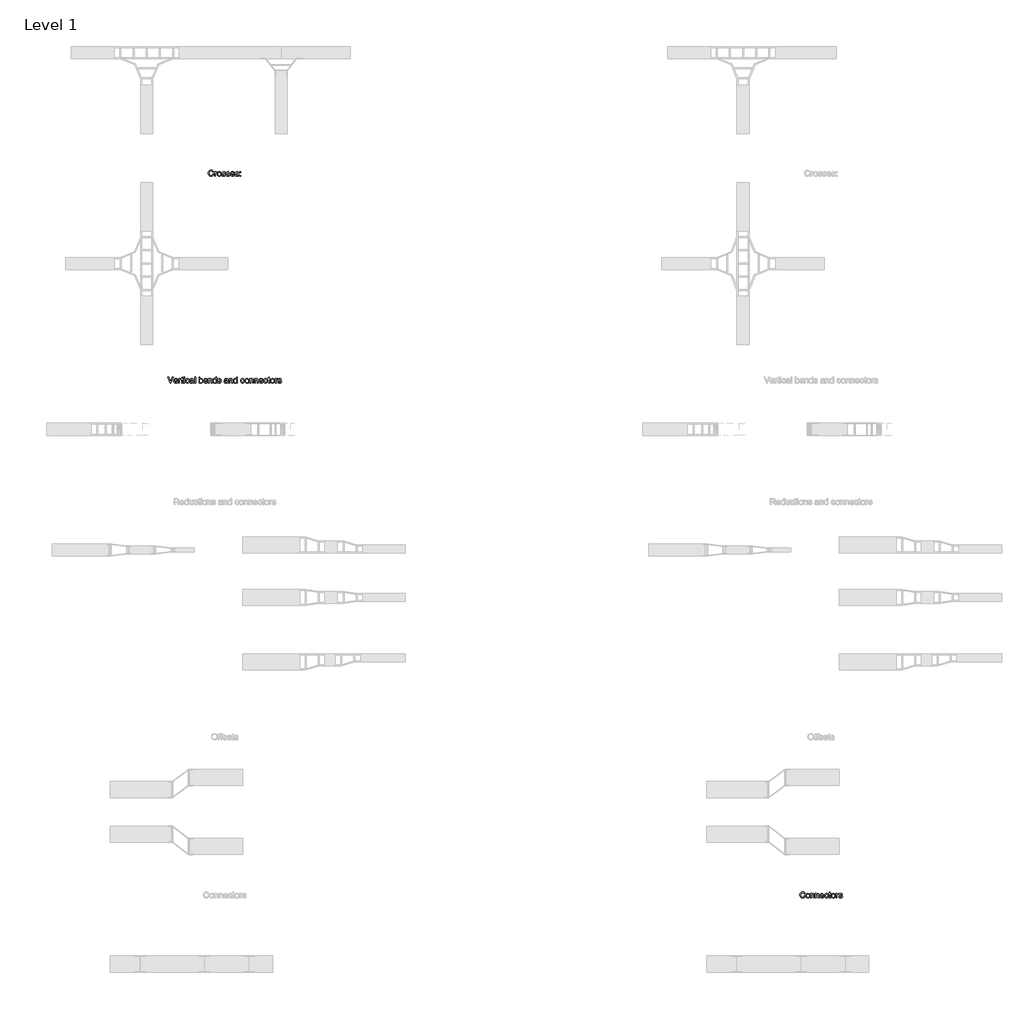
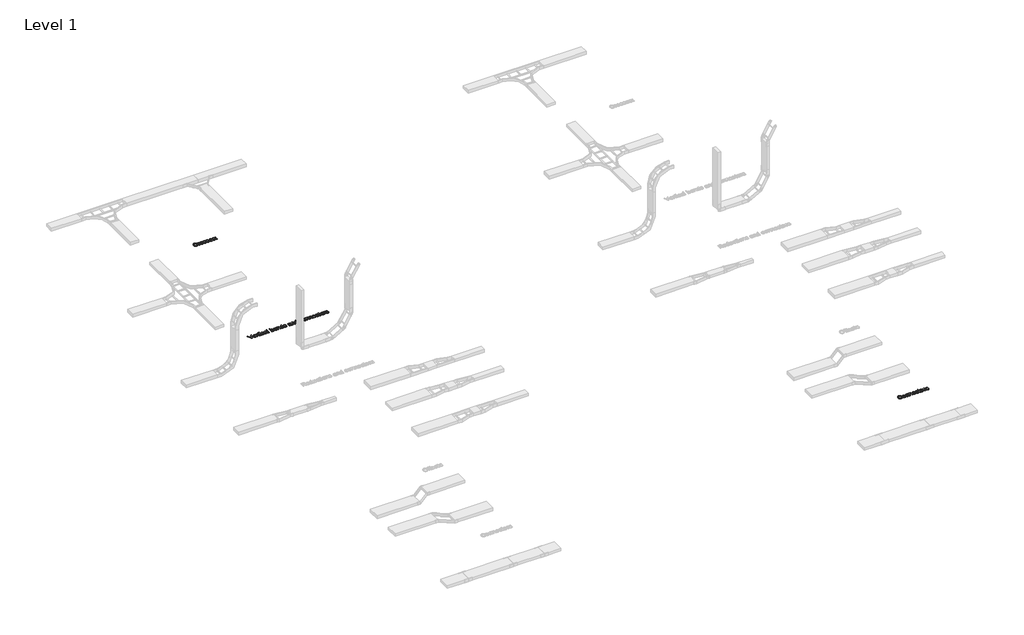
# One storey, part 73 of 106: 3 proxies.
"""IFC4 building model written with IfcOpenShell, lengths in millimetres."""

import ifcopenshell
import ifcopenshell.guid

model = None  # the IFC model being written
_history = None  # IfcOwnerHistory: only IFC2X3 demands one
_inside = {}  # id of a spatial element -> (the spatial element, [elements in it])
_under = {}  # id of a project, library or spatial element -> (it, [spatial elements below it])
_declared = {}  # id of a project -> (the project, [libraries it declares])
_typed = {}  # id of a type object -> (the type object, [elements of that type])
_made_of = {}  # id of a material, layer set ... -> (it, [elements and type objects made of it])


def new_model(schema):
    """Start an empty IFC model of exactly this schema.

    Asked for "IFC4X3", IfcOpenShell would pick the latest addendum, in which some entities
    have other attributes; the version numbers below select the first issue.
    IFC2X3 requires an IfcOwnerHistory on every rooted entity: one is made here for all.
    """
    global model, _history
    if schema == "IFC4X3":
        model = ifcopenshell.file(schema_version=(4, 3, 0, 0))
    else:
        model = ifcopenshell.file(schema=schema)
    _inside.clear()
    _under.clear()
    _declared.clear()
    _typed.clear()
    _made_of.clear()
    _history = None
    if model.schema == "IFC2X3":
        org = make("IfcOrganization", Name="unknown")
        user = make(
            "IfcPersonAndOrganization",
            ThePerson=make("IfcPerson", FamilyName="unknown"),
            TheOrganization=org,
        )
        app = make(
            "IfcApplication",
            ApplicationDeveloper=org,
            Version="unknown",
            ApplicationFullName="unknown",
            ApplicationIdentifier="unknown",
        )
        _history = make(
            "IfcOwnerHistory",
            OwningUser=user,
            OwningApplication=app,
            ChangeAction="ADDED",
            CreationDate=0,
        )
    return model


def make(cls, **values):
    """One entity of the class cls with the attributes given. An attribute that is None is left unset."""
    return model.create_entity(
        cls, **{name: value for name, value in values.items() if value is not None}
    )


def rooted(cls, **values):
    """An entity with a GlobalId (a new one), such as an element, a storey or a relation."""
    return make(cls, GlobalId=ifcopenshell.guid.new(), OwnerHistory=_history, **values)


def si_unit(unit_type, name, prefix=None):
    """IfcSIUnit, for example si_unit("LENGTHUNIT", "METRE", prefix="MILLI")."""
    return make("IfcSIUnit", UnitType=unit_type, Prefix=prefix, Name=name)


def assignment(units):
    """IfcUnitAssignment: the units of a project."""
    return None if units is None else make("IfcUnitAssignment", Units=units)


def point(xyz):
    """IfcCartesianPoint."""
    return None if xyz is None else make("IfcCartesianPoint", Coordinates=xyz)


def direction(xyz):
    """IfcDirection."""
    return None if xyz is None else make("IfcDirection", DirectionRatios=xyz)


def frame(location, z_axis=None, x_axis=None):
    """IfcAxis2Placement3D, a coordinate frame: its origin and axes. An axis left out is left unset."""
    return make(
        "IfcAxis2Placement3D",
        Location=point(location),
        Axis=direction(z_axis),
        RefDirection=direction(x_axis),
    )


def origin():
    """The frame at (0, 0, 0) with its axes left unset."""
    return frame((0.0, 0.0, 0.0))


def origin_with_axes():
    """The frame at (0, 0, 0) with the z axis (0, 0, 1) and the x axis (1, 0, 0) written out."""
    return frame((0.0, 0.0, 0.0), z_axis=(0.0, 0.0, 1.0), x_axis=(1.0, 0.0, 0.0))


def place(relative_to, where):
    """IfcLocalPlacement: puts the frame where relative to a parent placement (None: the world)."""
    return make(
        "IfcLocalPlacement", PlacementRelTo=relative_to, RelativePlacement=where
    )


def context(
    kind, dimensions, precision=None, world=None, true_north=None, identifier=None
):
    """IfcGeometricRepresentationContext, for example the 3D "Model" context."""
    return make(
        "IfcGeometricRepresentationContext",
        ContextIdentifier=identifier,
        ContextType=kind,
        CoordinateSpaceDimension=dimensions,
        Precision=precision,
        WorldCoordinateSystem=world,
        TrueNorth=true_north,
    )


def project(units=None, contexts=None):
    """IfcProject with its units and contexts."""
    return rooted(
        "IfcProject",
        Name="project",
        RepresentationContexts=contexts,
        UnitsInContext=assignment(units),
    )


def spatial(cls, under=None, at=None, **own):
    """A site, building, storey or space (cls), placed at a placement, below another one or the project."""
    s = rooted(cls, ObjectPlacement=at, **own)
    if under is not None:
        _under.setdefault(under.id(), (under, []))[1].append(s)
    return s


def polyline(points):
    """IfcPolyline through the points."""
    return make("IfcPolyline", Points=[point(p) for p in points])


def outline(outer, holes=None, kind="AREA"):
    """IfcArbitraryClosedProfileDef: a profile drawn as a closed curve; with holes, ...WithVoids."""
    if holes is None:
        return make("IfcArbitraryClosedProfileDef", ProfileType=kind, OuterCurve=outer)
    return make(
        "IfcArbitraryProfileDefWithVoids",
        ProfileType=kind,
        OuterCurve=outer,
        InnerCurves=holes,
    )


def extrude(swept, where, along, depth):
    """IfcExtrudedAreaSolid: the profile swept, set in the frame where, extruded along a direction by depth."""
    return make(
        "IfcExtrudedAreaSolid",
        SweptArea=swept,
        Position=where,
        ExtrudedDirection=direction(along),
        Depth=depth,
    )


def shape(context_of_items, identifier, shape_type, items):
    """IfcShapeRepresentation: the items that make up one representation, for example the "Body"."""
    return make(
        "IfcShapeRepresentation",
        ContextOfItems=context_of_items,
        RepresentationIdentifier=identifier,
        RepresentationType=shape_type,
        Items=items,
    )


def made_of(thing, what):
    """Note that an element or type object is made of a material, layer set ...; save() writes the relation."""
    if what is not None:
        _made_of.setdefault(what.id(), (what, []))[1].append(thing)
    return thing


def element(
    cls,
    number,
    at=None,
    inside=None,
    cuts=None,
    type_object=None,
    material=None,
    context=None,
    identifier="Body",
    shape_type=None,
    held_by="IfcProductDefinitionShape",
    body=None,
    shapes=None,
    **own,
):
    """One element of the class cls, such as IfcWall. Its Tag is "e" and its number.

    at: its placement. inside: the storey or other place that contains it. cuts: it is an
    opening in that element (IfcRelVoidsElement). A single representation is given by context,
    identifier, shape_type and body (its items); several are given by shapes. held_by: the class
    of the entity that holds the representations. save() writes the other relations.
    """
    e = rooted(cls, Tag="e%d" % number, ObjectPlacement=at, **own)
    if body is not None:
        shapes = [shape(context, identifier, shape_type, body)]
    if shapes is not None:
        e.Representation = make(held_by, Representations=shapes)
    if inside is not None:
        _inside.setdefault(inside.id(), (inside, []))[1].append(e)
    if cuts is not None:
        rooted(
            "IfcRelVoidsElement", RelatingBuildingElement=cuts, RelatedOpeningElement=e
        )
    if type_object is not None:
        _typed.setdefault(type_object.id(), (type_object, []))[1].append(e)
    return made_of(e, material)


def aggregate(whole, parts):
    """IfcRelAggregates: a whole, such as a stair, and the parts it consists of."""
    return rooted("IfcRelAggregates", RelatingObject=whole, RelatedObjects=parts)


def save(model, path):
    """Write the relations noted so far, then the file.

    IfcRelAggregates (storeys below a building ...), IfcRelContainedInSpatialStructure (elements
    in a storey), IfcRelDefinesByType, IfcRelAssociatesMaterial and IfcRelDeclares: one each for
    every whole, place, type object, material and project.
    """
    for whole, parts in _under.values():
        aggregate(whole, parts)
    for where, things in _inside.values():
        rooted(
            "IfcRelContainedInSpatialStructure",
            RelatedElements=things,
            RelatingStructure=where,
        )
    for kind, things in _typed.values():
        rooted("IfcRelDefinesByType", RelatedObjects=things, RelatingType=kind)
    for what, things in _made_of.values():
        rooted("IfcRelAssociatesMaterial", RelatedObjects=things, RelatingMaterial=what)
    for by, libraries in _declared.values():
        rooted("IfcRelDeclares", RelatingContext=by, RelatedDefinitions=libraries)
    model.write(path)


model = new_model("IFC4")

# Units and contexts
model_context = context("Model", 3, world=origin())
ifc_project = project(units=[si_unit("LENGTHUNIT", "METRE", prefix="MILLI")], contexts=[model_context])

# Site, building, storey
site = spatial("IfcSite", under=ifc_project)
building = spatial("IfcBuilding", under=site)
storey = spatial("IfcBuildingStorey", under=building, Name="Level 1", Elevation=0.0)

# Proxies
placement = place(None, origin())
element("IfcBuildingElementProxy", 1, Name="150mm Arial 2", ObjectType="150mm Arial 2", at=placement, inside=storey, context=model_context, shape_type="SweptSolid", body=[
    extrude(outline(polyline([(92926.8011102, 62501.4112533), (92945.6366684, 62496.5552109), (92936.9454562, 62474.6064514), (92923.3062312, 62458.5713949), (92905.3903781, 62448.7627412), (92883.8692814, 62445.49319), (92862.0216894, 62447.9671964), (92844.6714548, 62455.3892157), (92831.3725206, 62467.5017304), (92821.6788301, 62484.0472231), (92815.7605285, 62503.4989836), (92813.7877613, 62524.3303016), (92816.0180459, 62546.3020537), (92822.7088997, 62565.2755676), (92833.5108347, 62580.6484365), (92848.0743632, 62591.8182536), (92865.3464229, 62598.619472), (92884.2739516, 62600.8865448), (92904.9259271, 62597.9526859), (92922.0002502, 62589.1511091), (92934.963492, 62575.0244405), (92943.2822236, 62556.115306), (92924.4466654, 62551.6271456), (92917.91676, 62565.3629396), (92908.9956216, 62574.7853172), (92897.5728857, 62580.2345693), (92883.5381876, 62582.0509866), (92867.3605768, 62580.0368327), (92854.0708398, 62573.9943709), (92843.9862746, 62564.5581977), (92837.4241795, 62552.3629096), (92832.6233194, 62524.3670898), (92834.0442636, 62506.9662714), (92838.3070963, 62491.9198978), (92845.5727657, 62479.8027846), (92856.0022202, 62471.1897474), (92868.5056095, 62466.043998), (92881.9930832, 62464.3287482), (92897.71544, 62466.6647988), (92910.8166375, 62473.6729508), (92920.7080647, 62485.2796278), (92926.8011102, 62501.4112533)])), origin_with_axes(), (0.0, 0.0, 1.0), 15.0),
    extrude(outline(polyline([(92969.181116, 62447.8476348), (92969.181116, 62558.5065389), (92985.6622294, 62558.5065389), (92985.6622294, 62542.1357901), (92997.3608769, 62557.2189519), (93009.1331007, 62560.8609837), (93028.0422353, 62555.0484482), (93021.7514532, 62538.1626646), (93008.5077013, 62542.0254255), (92997.8575176, 62538.3098174), (92991.0700948, 62528.0091215), (92988.0166742, 62506.0097782), (92988.0166742, 62447.8476348), (92969.181116, 62447.8476348)])), origin_with_axes(), (0.0, 0.0, 1.0), 15.0),
    extrude(outline(polyline([(93035.1055696, 62503.1770869), (93039.1798627, 62529.8577286), (93051.402742, 62548.6105133), (93066.5042979, 62557.7983661), (93084.5856979, 62560.8609837), (93104.3731507, 62557.13158), (93120.178281, 62545.9433688), (93130.5387577, 62528.179267), (93133.9922499, 62504.7221912), (93132.4655396, 62485.693495), (93127.8854088, 62471.2081415), (93120.3852146, 62460.3602211), (93110.0983143, 62452.2438246), (93097.8800335, 62447.1808487), (93084.5856979, 62445.49319), (93064.5591218, 62449.2087982), (93048.7723857, 62460.3556226), (93038.5222736, 62478.492205), (93035.1055696, 62503.1770869)]), holes=[polyline([(93053.9411277, 62503.2138751), (93056.1208286, 62486.1671431), (93062.659931, 62474.0224387), (93072.5007744, 62466.7521708), (93084.5856979, 62464.3287482), (93096.6154392, 62466.7659664), (93106.4378884, 62474.077621), (93112.9769909, 62486.3832738), (93115.1566917, 62503.8024862), (93112.9631953, 62520.3525775), (93106.3827061, 62532.331735), (93096.5464613, 62539.6020029), (93084.5856979, 62542.0254255), (93072.5007744, 62539.6112), (93062.659931, 62532.3685232), (93056.1208286, 62520.25141), (93053.9411277, 62503.2138751)])]), origin_with_axes(), (0.0, 0.0, 1.0), 15.0),
    extrude(outline(polyline([(93148.1189185, 62480.8098615), (93166.9544766, 62483.1643063), (93169.9251238, 62475.1076906), (93175.6732799, 62469.1847905), (93195.6492723, 62464.3287482), (93214.8527124, 62468.7801203), (93221.1067063, 62479.227969), (93219.5340108, 62484.028829), (93214.8159242, 62487.6892549), (93195.4285431, 62493.060332), (93167.0648412, 62502.275776), (93154.6856121, 62513.0363243), (93150.4733633, 62528.2298507), (93153.8578776, 62542.2645488), (93163.0917157, 62552.988309), (93175.0662746, 62558.5617212), (93191.2714765, 62560.8609837), (93214.1905248, 62557.1637696), (93228.7586518, 62547.1573794), (93235.233375, 62530.2532017), (93216.3978168, 62527.8987569), (93209.3160884, 62538.2914233), (93192.7430045, 62542.0254255), (93174.7167867, 62538.4569702), (93169.3089214, 62530.1428371), (93171.5530016, 62524.6613954), (93178.5795477, 62520.5043288), (93194.8031437, 62516.4944151), (93222.4494756, 62507.628459), (93235.2885573, 62497.5852805), (93239.9422645, 62481.2145317), (93234.4792169, 62463.188314), (93218.7154734, 62450.1101091), (93195.3917549, 62445.49319), (93176.3998469, 62447.7188761), (93162.5398927, 62454.3959343), (93153.2876605, 62465.4507882), (93148.1189185, 62480.8098615)])), origin_with_axes(), (0.0, 0.0, 1.0), 15.0),
    extrude(outline(polyline([(93254.0689331, 62480.8098615), (93272.9044913, 62483.1643063), (93275.8751384, 62475.1076906), (93281.6232945, 62469.1847905), (93301.5992869, 62464.3287482), (93320.802727, 62468.7801203), (93327.056721, 62479.227969), (93325.4840254, 62484.028829), (93320.7659388, 62487.6892549), (93301.3785577, 62493.060332), (93273.0148559, 62502.275776), (93260.6356267, 62513.0363243), (93256.4233779, 62528.2298507), (93259.8078922, 62542.2645488), (93269.0417303, 62552.988309), (93281.0162893, 62558.5617212), (93297.2214911, 62560.8609837), (93320.1405394, 62557.1637696), (93334.7086664, 62547.1573794), (93341.1833896, 62530.2532017), (93322.3478314, 62527.8987569), (93315.266103, 62538.2914233), (93298.6930191, 62542.0254255), (93280.6668014, 62538.4569702), (93275.258936, 62530.1428371), (93277.5030162, 62524.6613954), (93284.5295623, 62520.5043288), (93300.7531583, 62516.4944151), (93328.3994902, 62507.628459), (93341.2385719, 62497.5852805), (93345.8922791, 62481.2145317), (93340.4292315, 62463.188314), (93324.665488, 62450.1101091), (93301.3417695, 62445.49319), (93282.3498615, 62447.7188761), (93268.4899073, 62454.3959343), (93259.2376751, 62465.4507882), (93254.0689331, 62480.8098615)])), origin_with_axes(), (0.0, 0.0, 1.0), 15.0),
    extrude(outline(polyline([(93444.5582302, 62480.8098615), (93463.0259064, 62478.4554168), (93456.3718408, 62464.5402803), (93445.7538467, 62454.1384169), (93431.4110474, 62447.6544967), (93413.5825662, 62445.49319), (93391.4820554, 62449.2225937), (93374.4767101, 62460.4108049), (93363.6333883, 62478.3312566), (93360.0189477, 62502.2573819), (93363.6701765, 62526.988249), (93374.6238629, 62545.4835163), (93391.3992819, 62557.0166168), (93412.5157084, 62560.8609837), (93432.9745459, 62557.0258139), (93449.322302, 62545.5203045), (93460.0414637, 62527.0618254), (93463.6145176, 62502.3677465), (93463.504153, 62497.2909749), (93378.8545059, 62497.2909749), (93382.1148601, 62483.1918975), (93389.6886306, 62472.8268223), (93400.6193244, 62466.4532667), (93413.9504482, 62464.3287482), (93432.4181244, 62468.2650855), (93444.5582302, 62480.8098615)]), holes=[polyline([(93378.8545059, 62516.1265331), (93444.7789594, 62516.1265331), (93442.2313766, 62526.0777411), (93437.2373785, 62533.1962577), (93426.2561009, 62539.8181336), (93412.442132, 62542.0254255), (93399.7456047, 62540.2641905), (93389.2471722, 62534.9804853), (93381.9493132, 62526.7445272), (93378.8545059, 62516.1265331)])]), origin_with_axes(), (0.0, 0.0, 1.0), 15.0),
    extrude(outline(polyline([(93475.3867414, 62480.8098615), (93494.2222996, 62483.1643063), (93497.1929467, 62475.1076906), (93502.9411028, 62469.1847905), (93522.9170952, 62464.3287482), (93542.1205353, 62468.7801203), (93548.3745292, 62479.227969), (93546.8018337, 62484.028829), (93542.0837471, 62487.6892549), (93522.696366, 62493.060332), (93494.3326642, 62502.275776), (93481.953435, 62513.0363243), (93477.7411862, 62528.2298507), (93481.1257005, 62542.2645488), (93490.3595386, 62552.988309), (93502.3340976, 62558.5617212), (93518.5392994, 62560.8609837), (93541.4583477, 62557.1637696), (93556.0264747, 62547.1573794), (93562.5011979, 62530.2532017), (93543.6656397, 62527.8987569), (93536.5839113, 62538.2914233), (93520.0108274, 62542.0254255), (93501.9846097, 62538.4569702), (93496.5767443, 62530.1428371), (93498.8208245, 62524.6613954), (93505.8473706, 62520.5043288), (93522.0709666, 62516.4944151), (93549.7172985, 62507.628459), (93562.5563802, 62497.5852805), (93567.2100874, 62481.2145317), (93561.7470398, 62463.188314), (93545.9832963, 62450.1101091), (93522.6595778, 62445.49319), (93503.6676698, 62447.7188761), (93489.8077156, 62454.3959343), (93480.5554834, 62465.4507882), (93475.3867414, 62480.8098615)])), origin_with_axes(), (0.0, 0.0, 1.0), 15.0),
    extrude(outline(polyline([(93593.1089799, 62539.6709808), (93593.1089799, 62558.5065389), (93611.944538, 62558.5065389), (93611.944538, 62539.6709808), (93593.1089799, 62539.6709808)])), origin_with_axes(), (0.0, 0.0, 1.0), 15.0),
    extrude(outline(polyline([(93593.1089799, 62447.8476348), (93593.1089799, 62466.6831929), (93611.944538, 62466.6831929), (93611.944538, 62447.8476348), (93593.1089799, 62447.8476348)])), origin_with_axes(), (0.0, 0.0, 1.0), 15.0),
])
element("IfcBuildingElementProxy", 2, Name="150mm Arial 2", ObjectType="150mm Arial 2", at=placement, inside=storey, context=model_context, shape_type="SweptSolid", body=[
    extrude(outline(polyline([(91872.9295586, 57347.8476348), (91813.0015816, 57498.5321), (91833.1615149, 57498.5321), (91873.2974406, 57389.9701232), (91881.4276327, 57365.5059705), (91889.4474602, 57389.9701232), (91929.6937505, 57498.5321), (91949.8168956, 57498.5321), (91892.353728, 57347.8476348), (91872.9295586, 57347.8476348)])), origin_with_axes(), (0.0, 0.0, 1.0), 15.0),
    extrude(outline(polyline([(92042.4863702, 57380.8098615), (92060.9540463, 57378.4554168), (92054.2999808, 57364.5402803), (92043.6819867, 57354.1384169), (92029.3391874, 57347.6544967), (92011.5107062, 57345.49319), (91989.4101953, 57349.2225937), (91972.4048501, 57360.4108049), (91961.5615283, 57378.3312566), (91957.9470877, 57402.2573819), (91961.5983165, 57426.988249), (91972.5520029, 57445.4835163), (91989.3274219, 57457.0166168), (92010.4438484, 57460.8609837), (92030.9026859, 57457.0258139), (92047.250442, 57445.5203045), (92057.9696037, 57427.0618254), (92061.5426575, 57402.3677465), (92061.4322929, 57397.2909749), (91976.7826459, 57397.2909749), (91980.043, 57383.1918975), (91987.6167706, 57372.8268223), (91998.5474644, 57366.4532667), (92011.8785882, 57364.3287482), (92030.3462644, 57368.2650855), (92042.4863702, 57380.8098615)]), holes=[polyline([(91976.7826459, 57416.1265331), (92042.7070994, 57416.1265331), (92040.1595166, 57426.0777411), (92035.1655185, 57433.1962577), (92024.1842409, 57439.8181336), (92010.370272, 57442.0254255), (91997.6737447, 57440.2641905), (91987.1753122, 57434.9804853), (91979.8774531, 57426.7445272), (91976.7826459, 57416.1265331)])]), origin_with_axes(), (0.0, 0.0, 1.0), 15.0),
    extrude(outline(polyline([(92191.0371198, 57363.556196), (92193.3915646, 57347.2958118), (92179.3016842, 57345.49319), (92163.5195466, 57348.620187), (92155.6468719, 57356.8239555), (92153.3660035, 57378.1978994), (92153.3660035, 57439.6709808), (92139.2393349, 57439.6709808), (92139.2393349, 57455.0484482), (92139.2393349, 57458.5065389), (92153.3660035, 57458.5065389), (92153.3660035, 57485.3987128), (92172.2015617, 57496.4719608), (92172.2015617, 57458.5065389), (92191.0371198, 57458.5065389), (92191.0371198, 57439.6709808), (92172.2015617, 57439.6709808), (92172.2015617, 57378.7497224), (92173.1948431, 57369.0376377), (92176.4138105, 57365.597941), (92182.8333514, 57364.3287482), (92191.0371198, 57363.556196)])), origin_with_axes(), (0.0, 0.0, 1.0), 15.0),
    extrude(outline(polyline([(92080.3782157, 57347.8476348), (92080.3782157, 57458.5065389), (92096.8593291, 57458.5065389), (92096.8593291, 57442.1357901), (92108.5579765, 57457.2189519), (92120.3302004, 57460.8609837), (92139.2393349, 57455.0484482), (92132.9485528, 57438.1626646), (92119.704801, 57442.0254255), (92109.0546172, 57438.3098174), (92102.2671944, 57428.0091215), (92099.2137738, 57406.0097782), (92099.2137738, 57347.8476348), (92080.3782157, 57347.8476348)])), origin_with_axes(), (0.0, 0.0, 1.0), 15.0),
    extrude(outline(polyline([(92209.872678, 57479.6965419), (92209.872678, 57498.5321), (92228.7082362, 57498.5321), (92228.7082362, 57479.6965419), (92209.872678, 57479.6965419)])), origin_with_axes(), (0.0, 0.0, 1.0), 15.0),
    extrude(outline(polyline([(92209.872678, 57347.8476348), (92209.872678, 57458.5065389), (92228.7082362, 57458.5065389), (92228.7082362, 57347.8476348), (92209.872678, 57347.8476348)])), origin_with_axes(), (0.0, 0.0, 1.0), 15.0),
    extrude(outline(polyline([(92327.5949165, 57387.8731959), (92346.4304746, 57385.5187511), (92341.1789591, 57368.7663247), (92331.3105246, 57356.1065856), (92317.7540731, 57348.1465389), (92301.4385066, 57345.49319), (92281.4027334, 57349.1950026), (92265.735559, 57360.3004403), (92255.6234026, 57378.3220596), (92252.2526838, 57402.7724167), (92253.6920221, 57419.5340401), (92258.0100371, 57434.0607803), (92265.2757065, 57445.7916175), (92275.5580082, 57454.1655314), (92287.8590624, 57459.1871206), (92301.1809892, 57460.8609837), (92317.096484, 57458.5617212), (92329.8206025, 57451.6639338), (92338.9486745, 57440.5355035), (92344.0760298, 57425.5443122), (92325.2404717, 57423.1898674), (92316.5032743, 57437.2981419), (92301.328142, 57442.0254255), (92289.1558465, 57439.6985719), (92279.4943456, 57432.7180111), (92273.1897679, 57420.7066639), (92271.088242, 57403.2874515), (92273.1437826, 57385.6337142), (92279.3104046, 57373.5809803), (92288.7971615, 57366.6418062), (92300.8131072, 57364.3287482), (92310.5665786, 57365.772685), (92318.5634135, 57370.1044955), (92324.3805475, 57377.4345442), (92327.5949165, 57387.8731959)])), origin_with_axes(), (0.0, 0.0, 1.0), 15.0),
    extrude(outline(polyline([(92433.5449311, 57361.9743034), (92415.27959, 57349.2087982), (92395.1012626, 57345.49319), (92379.3605117, 57347.7280731), (92367.7492362, 57354.4327225), (92360.5893329, 57364.6138567), (92358.2026985, 57377.2781944), (92361.807942, 57392.1774152), (92371.2809034, 57402.9931459), (92384.4694729, 57409.1735634), (92400.7666453, 57412.0062547), (92433.4345665, 57418.4809779), (92433.5449311, 57422.6748326), (92432.248147, 57431.0809362), (92428.3577949, 57436.580772), (92419.6573857, 57440.6642622), (92407.535674, 57442.0254255), (92388.4793867, 57438.4017879), (92379.3927014, 57425.5443122), (92360.5571432, 57427.8987569), (92368.7057294, 57446.2928567), (92385.1132664, 57457.0717991), (92409.9636952, 57460.8609837), (92432.790773, 57457.5132575), (92445.6850369, 57449.107154), (92451.4607842, 57436.3232546), (92452.3804892, 57419.8421412), (92452.3804892, 57396.4080581), (92453.3369824, 57363.6849547), (92457.0893788, 57347.8476348), (92438.2538206, 57347.8476348), (92433.5449311, 57361.9743034)]), holes=[polyline([(92433.5449311, 57399.6454197), (92403.1578783, 57393.8696724), (92386.9526764, 57390.8162518), (92379.6134306, 57385.8498449), (92377.0382566, 57378.6025696), (92382.648457, 57368.4122383), (92399.1111763, 57364.3287482), (92418.1674637, 57368.8353026), (92430.4547223, 57379.7430038), (92433.4345665, 57394.3111308), (92433.5449311, 57399.6454197)])]), origin_with_axes(), (0.0, 0.0, 1.0), 15.0),
    extrude(outline(polyline([(92478.2793817, 57347.8476348), (92478.2793817, 57498.5321), (92497.1149398, 57498.5321), (92497.1149398, 57347.8476348), (92478.2793817, 57347.8476348)])), origin_with_axes(), (0.0, 0.0, 1.0), 15.0),
    extrude(outline(polyline([(92603.0649544, 57347.8476348), (92584.2293963, 57347.8476348), (92584.2293963, 57498.5321), (92603.0649544, 57498.5321), (92603.0649544, 57442.6508249), (92616.253524, 57456.308444), (92632.6426669, 57460.8609837), (92651.5150132, 57456.7590995), (92666.1567166, 57445.2259989), (92675.1514314, 57427.2917516), (92678.4071871, 57404.8325558), (92675.0364683, 57379.6878215), (92664.9243119, 57360.981022), (92650.084872, 57349.365148), (92632.5323023, 57345.49319), (92615.7844744, 57350.4871881), (92603.0649544, 57365.4691823), (92603.0649544, 57347.8476348)]), holes=[polyline([(92603.0649544, 57403.949639), (92604.3525414, 57388.2410779), (92608.2153024, 57377.6092882), (92618.0837369, 57367.6488832), (92630.9136215, 57364.3287482), (92641.7845344, 57366.7751634), (92651.0735548, 57374.1144092), (92657.4471104, 57386.3005003), (92659.5716289, 57403.2874515), (92657.5344824, 57420.5227229), (92651.4230427, 57432.5708583), (92642.4237294, 57439.6617837), (92631.7229619, 57442.0254255), (92620.8520489, 57439.5790103), (92611.5630285, 57432.2397645), (92605.189473, 57420.2744026), (92603.0649544, 57403.949639)])]), origin_with_axes(), (0.0, 0.0, 1.0), 15.0),
    extrude(outline(polyline([(92777.0731382, 57380.8098615), (92795.5408143, 57378.4554168), (92788.8867487, 57364.5402803), (92778.2687546, 57354.1384169), (92763.9259554, 57347.6544967), (92746.0974742, 57345.49319), (92723.9969633, 57349.2225937), (92706.9916181, 57360.4108049), (92696.1482963, 57378.3312566), (92692.5338557, 57402.2573819), (92696.1850845, 57426.988249), (92707.1387709, 57445.4835163), (92723.9141899, 57457.0166168), (92745.0306164, 57460.8609837), (92765.4894538, 57457.0258139), (92781.83721, 57445.5203045), (92792.5563716, 57427.0618254), (92796.1294255, 57402.3677465), (92796.0190609, 57397.2909749), (92711.3694138, 57397.2909749), (92714.629768, 57383.1918975), (92722.2035386, 57372.8268223), (92733.1342324, 57366.4532667), (92746.4653562, 57364.3287482), (92764.9330323, 57368.2650855), (92777.0731382, 57380.8098615)]), holes=[polyline([(92711.3694138, 57416.1265331), (92777.2938674, 57416.1265331), (92774.7462845, 57426.0777411), (92769.7522865, 57433.1962577), (92758.7710089, 57439.8181336), (92744.95704, 57442.0254255), (92732.2605126, 57440.2641905), (92721.7620802, 57434.9804853), (92714.4642211, 57426.7445272), (92711.3694138, 57416.1265331)])]), origin_with_axes(), (0.0, 0.0, 1.0), 15.0),
    extrude(outline(polyline([(92814.9649837, 57347.8476348), (92814.9649837, 57458.5065389), (92833.8005418, 57458.5065389), (92833.8005418, 57443.0554951), (92848.2031219, 57456.4096116), (92867.8664146, 57460.8609837), (92885.653509, 57457.2741342), (92897.7936149, 57447.8563552), (92903.4406035, 57434.0055981), (92904.4338849, 57415.7954393), (92904.4338849, 57347.8476348), (92885.5983267, 57347.8476348), (92885.5983267, 57413.2570535), (92883.427823, 57429.9221079), (92875.7574834, 57438.7328817), (92862.8264312, 57442.0254255), (92851.7945699, 57440.1768185), (92842.3905864, 57434.6309974), (92835.948053, 57423.9164343), (92833.8005418, 57406.5616012), (92833.8005418, 57347.8476348), (92814.9649837, 57347.8476348)])), origin_with_axes(), (0.0, 0.0, 1.0), 15.0),
    extrude(outline(polyline([(92998.6116757, 57347.8476348), (92998.6116757, 57365.6163351), (92986.1496731, 57350.5239763), (92968.9235986, 57345.49319), (92956.7467046, 57347.3142059), (92945.5998802, 57352.7772535), (92936.163707, 57361.5006553), (92929.1187668, 57373.1027337), (92924.731774, 57387.1144392), (92923.269443, 57403.0667223), (92928.6589143, 57433.0491049), (92935.3911548, 57444.9408904), (92944.8089339, 57453.6872848), (92956.1994801, 57459.067559), (92968.8500222, 57460.8609837), (92986.2140524, 57455.7290299), (92998.6116757, 57442.3933075), (92998.6116757, 57498.5321), (93017.4472338, 57498.5321), (93017.4472338, 57347.8476348), (92998.6116757, 57347.8476348)]), holes=[polyline([(92942.1050012, 57403.1402987), (92944.2295197, 57386.1027638), (92950.6030753, 57373.9856505), (92959.8645045, 57366.7429738), (92970.652644, 57364.3287482), (92981.436185, 57366.6326092), (92990.4630895, 57373.5441921), (92996.5745291, 57385.1922558), (92998.6116757, 57401.7055589), (92996.5377409, 57419.7593678), (92990.3159367, 57432.2765527), (92981.059106, 57439.5882073), (92969.8800918, 57442.0254255), (92958.9815877, 57439.6847764), (92950.0512523, 57432.6628288), (92944.091564, 57420.6008979), (92942.1050012, 57403.1402987)])]), origin_with_axes(), (0.0, 0.0, 1.0), 15.0),
    extrude(outline(polyline([(93038.6372367, 57380.8098615), (93057.4727949, 57383.1643063), (93060.443442, 57375.1076906), (93066.1915982, 57369.1847905), (93086.1675905, 57364.3287482), (93105.3710307, 57368.7801203), (93111.6250246, 57379.227969), (93110.052329, 57384.028829), (93105.3342425, 57387.6892549), (93085.9468613, 57393.060332), (93057.5831595, 57402.275776), (93045.2039303, 57413.0363243), (93040.9916815, 57428.2298507), (93044.3761959, 57442.2645488), (93053.6100339, 57452.988309), (93065.5845929, 57458.5617212), (93081.7897948, 57460.8609837), (93104.7088431, 57457.1637696), (93119.2769701, 57447.1573794), (93125.7516932, 57430.2532017), (93106.916135, 57427.8987569), (93099.8344066, 57438.2914233), (93083.2613227, 57442.0254255), (93065.235105, 57438.4569702), (93059.8272397, 57430.1428371), (93062.0713198, 57424.6613954), (93069.0978659, 57420.5043288), (93085.3214619, 57416.4944151), (93112.9677939, 57407.628459), (93125.8068755, 57397.5852805), (93130.4605827, 57381.2145317), (93124.9975351, 57363.188314), (93109.2337916, 57350.1101091), (93085.9100731, 57345.49319), (93066.9181651, 57347.7188761), (93053.0582109, 57354.3959343), (93043.8059788, 57365.4507882), (93038.6372367, 57380.8098615)])), origin_with_axes(), (0.0, 0.0, 1.0), 15.0),
    extrude(outline(polyline([(93281.145048, 57361.9743034), (93262.8797069, 57349.2087982), (93242.7013795, 57345.49319), (93226.9606286, 57347.7280731), (93215.3493531, 57354.4327225), (93208.1894498, 57364.6138567), (93205.8028153, 57377.2781944), (93209.4080589, 57392.1774152), (93218.8810203, 57402.9931459), (93232.0695898, 57409.1735634), (93248.3667622, 57412.0062547), (93281.0346834, 57418.4809779), (93281.145048, 57422.6748326), (93279.8482639, 57431.0809362), (93275.9579118, 57436.580772), (93267.2575026, 57440.6642622), (93255.1357909, 57442.0254255), (93236.0795035, 57438.4017879), (93226.9928183, 57425.5443122), (93208.1572601, 57427.8987569), (93216.3058463, 57446.2928567), (93232.7133833, 57457.0717991), (93257.5638121, 57460.8609837), (93280.3908899, 57457.5132575), (93293.2851538, 57449.107154), (93299.0609011, 57436.3232546), (93299.9806061, 57419.8421412), (93299.9806061, 57396.4080581), (93300.9370993, 57363.6849547), (93304.6894956, 57347.8476348), (93285.8539375, 57347.8476348), (93281.145048, 57361.9743034)]), holes=[polyline([(93281.145048, 57399.6454197), (93250.7579952, 57393.8696724), (93234.5527933, 57390.8162518), (93227.2135475, 57385.8498449), (93224.6383735, 57378.6025696), (93230.2485739, 57368.4122383), (93246.7112932, 57364.3287482), (93265.7675806, 57368.8353026), (93278.0548392, 57379.7430038), (93281.0346834, 57394.3111308), (93281.145048, 57399.6454197)])]), origin_with_axes(), (0.0, 0.0, 1.0), 15.0),
    extrude(outline(polyline([(93325.8794986, 57347.8476348), (93325.8794986, 57458.5065389), (93344.7150567, 57458.5065389), (93344.7150567, 57443.0554951), (93359.1176368, 57456.4096116), (93378.7809295, 57460.8609837), (93396.5680239, 57457.2741342), (93408.7081298, 57447.8563552), (93414.3551184, 57434.0055981), (93415.3483998, 57415.7954393), (93415.3483998, 57347.8476348), (93396.5128416, 57347.8476348), (93396.5128416, 57413.2570535), (93394.3423379, 57429.9221079), (93386.6719983, 57438.7328817), (93373.7409461, 57442.0254255), (93362.7090848, 57440.1768185), (93353.3051013, 57434.6309974), (93346.8625679, 57423.9164343), (93344.7150567, 57406.5616012), (93344.7150567, 57347.8476348), (93325.8794986, 57347.8476348)])), origin_with_axes(), (0.0, 0.0, 1.0), 15.0),
    extrude(outline(polyline([(93509.5261906, 57347.8476348), (93509.5261906, 57365.6163351), (93497.064188, 57350.5239763), (93479.8381135, 57345.49319), (93467.6612195, 57347.3142059), (93456.5143951, 57352.7772535), (93447.0782219, 57361.5006553), (93440.0332817, 57373.1027337), (93435.6462889, 57387.1144392), (93434.1839579, 57403.0667223), (93439.5734292, 57433.0491049), (93446.3056697, 57444.9408904), (93455.7234488, 57453.6872848), (93467.113995, 57459.067559), (93479.7645371, 57460.8609837), (93497.1285673, 57455.7290299), (93509.5261906, 57442.3933075), (93509.5261906, 57498.5321), (93528.3617487, 57498.5321), (93528.3617487, 57347.8476348), (93509.5261906, 57347.8476348)]), holes=[polyline([(93453.0195161, 57403.1402987), (93455.1440346, 57386.1027638), (93461.5175902, 57373.9856505), (93470.7790194, 57366.7429738), (93481.5671589, 57364.3287482), (93492.3506999, 57366.6326092), (93501.3776044, 57373.5441921), (93507.489044, 57385.1922558), (93509.5261906, 57401.7055589), (93507.4522558, 57419.7593678), (93501.2304516, 57432.2765527), (93491.9736209, 57439.5882073), (93480.7946067, 57442.0254255), (93469.8961026, 57439.6847764), (93460.9657672, 57432.6628288), (93455.0060789, 57420.6008979), (93453.0195161, 57403.1402987)])]), origin_with_axes(), (0.0, 0.0, 1.0), 15.0),
    extrude(outline(polyline([(93686.1095482, 57387.8731959), (93704.9451064, 57385.5187511), (93699.6935909, 57368.7663247), (93689.8251564, 57356.1065856), (93676.2687049, 57348.1465389), (93659.9531384, 57345.49319), (93639.9173652, 57349.1950026), (93624.2501908, 57360.3004403), (93614.1380344, 57378.3220596), (93610.7673156, 57402.7724167), (93612.2066539, 57419.5340401), (93616.5246689, 57434.0607803), (93623.7903383, 57445.7916175), (93634.07264, 57454.1655314), (93646.3736942, 57459.1871206), (93659.695621, 57460.8609837), (93675.6111158, 57458.5617212), (93688.3352343, 57451.6639338), (93697.4633063, 57440.5355035), (93702.5906616, 57425.5443122), (93683.7551035, 57423.1898674), (93675.0179061, 57437.2981419), (93659.8427738, 57442.0254255), (93647.6704783, 57439.6985719), (93638.0089774, 57432.7180111), (93631.7043997, 57420.7066639), (93629.6028738, 57403.2874515), (93631.6584144, 57385.6337142), (93637.8250364, 57373.5809803), (93647.3117933, 57366.6418062), (93659.327739, 57364.3287482), (93669.0812104, 57365.772685), (93677.0780453, 57370.1044955), (93682.8951793, 57377.4345442), (93686.1095482, 57387.8731959)])), origin_with_axes(), (0.0, 0.0, 1.0), 15.0),
    extrude(outline(polyline([(93716.7173302, 57403.1770869), (93720.7916233, 57429.8577286), (93733.0145026, 57448.6105133), (93748.1160585, 57457.7983661), (93766.1974586, 57460.8609837), (93785.9849114, 57457.13158), (93801.7900416, 57445.9433688), (93812.1505183, 57428.179267), (93815.6040105, 57404.7221912), (93814.0773003, 57385.693495), (93809.4971694, 57371.2081415), (93801.9969752, 57360.3602211), (93791.710075, 57352.2438246), (93779.4917942, 57347.1808487), (93766.1974586, 57345.49319), (93746.1708825, 57349.2087982), (93730.3841464, 57360.3556226), (93720.1340343, 57378.492205), (93716.7173302, 57403.1770869)]), holes=[polyline([(93735.5528884, 57403.2138751), (93737.7325892, 57386.1671431), (93744.2716917, 57374.0224387), (93754.1125351, 57366.7521708), (93766.1974586, 57364.3287482), (93778.2271998, 57366.7659664), (93788.0496491, 57374.077621), (93794.5887516, 57386.3832738), (93796.7684524, 57403.8024862), (93794.574956, 57420.3525775), (93787.9944668, 57432.331735), (93778.158222, 57439.6020029), (93766.1974586, 57442.0254255), (93754.1125351, 57439.6112), (93744.2716917, 57432.3685232), (93737.7325892, 57420.25141), (93735.5528884, 57403.2138751)])]), origin_with_axes(), (0.0, 0.0, 1.0), 15.0),
    extrude(outline(polyline([(93836.7940135, 57347.8476348), (93836.7940135, 57458.5065389), (93855.6295716, 57458.5065389), (93855.6295716, 57443.0554951), (93870.0321517, 57456.4096116), (93889.6954444, 57460.8609837), (93907.4825388, 57457.2741342), (93919.6226447, 57447.8563552), (93925.2696333, 57434.0055981), (93926.2629147, 57415.7954393), (93926.2629147, 57347.8476348), (93907.4273565, 57347.8476348), (93907.4273565, 57413.2570535), (93905.2568528, 57429.9221079), (93897.5865132, 57438.7328817), (93884.655461, 57442.0254255), (93873.6235997, 57440.1768185), (93864.2196162, 57434.6309974), (93857.7770828, 57423.9164343), (93855.6295716, 57406.5616012), (93855.6295716, 57347.8476348), (93836.7940135, 57347.8476348)])), origin_with_axes(), (0.0, 0.0, 1.0), 15.0),
    extrude(outline(polyline([(93952.1618072, 57347.8476348), (93952.1618072, 57458.5065389), (93970.9973653, 57458.5065389), (93970.9973653, 57443.0554951), (93985.3999454, 57456.4096116), (94005.0632381, 57460.8609837), (94022.8503325, 57457.2741342), (94034.9904384, 57447.8563552), (94040.637427, 57434.0055981), (94041.6307084, 57415.7954393), (94041.6307084, 57347.8476348), (94022.7951502, 57347.8476348), (94022.7951502, 57413.2570535), (94020.6246465, 57429.9221079), (94012.9543069, 57438.7328817), (94000.0232547, 57442.0254255), (93988.9913934, 57440.1768185), (93979.5874099, 57434.6309974), (93973.1448765, 57423.9164343), (93970.9973653, 57406.5616012), (93970.9973653, 57347.8476348), (93952.1618072, 57347.8476348)])), origin_with_axes(), (0.0, 0.0, 1.0), 15.0),
    extrude(outline(polyline([(94145.005549, 57380.8098615), (94163.4732252, 57378.4554168), (94156.8191596, 57364.5402803), (94146.2011655, 57354.1384169), (94131.8583662, 57347.6544967), (94114.029885, 57345.49319), (94091.9293742, 57349.2225937), (94074.9240289, 57360.4108049), (94064.0807071, 57378.3312566), (94060.4662665, 57402.2573819), (94064.1174953, 57426.988249), (94075.0711817, 57445.4835163), (94091.8466007, 57457.0166168), (94112.9630272, 57460.8609837), (94133.4218647, 57457.0258139), (94149.7696209, 57445.5203045), (94160.4887825, 57427.0618254), (94164.0618364, 57402.3677465), (94163.9514718, 57397.2909749), (94079.3018247, 57397.2909749), (94082.5621789, 57383.1918975), (94090.1359494, 57372.8268223), (94101.0666432, 57366.4532667), (94114.397767, 57364.3287482), (94132.8654432, 57368.2650855), (94145.005549, 57380.8098615)]), holes=[polyline([(94079.3018247, 57416.1265331), (94145.2262782, 57416.1265331), (94142.6786954, 57426.0777411), (94137.6846973, 57433.1962577), (94126.7034198, 57439.8181336), (94112.8894508, 57442.0254255), (94100.1929235, 57440.2641905), (94089.6944911, 57434.9804853), (94082.396632, 57426.7445272), (94079.3018247, 57416.1265331)])]), origin_with_axes(), (0.0, 0.0, 1.0), 15.0),
    extrude(outline(polyline([(94253.5307376, 57387.8731959), (94272.3662958, 57385.5187511), (94267.1147803, 57368.7663247), (94257.2463458, 57356.1065856), (94243.6898942, 57348.1465389), (94227.3743277, 57345.49319), (94207.3385546, 57349.1950026), (94191.6713801, 57360.3004403), (94181.5592238, 57378.3220596), (94178.188505, 57402.7724167), (94179.6278433, 57419.5340401), (94183.9458582, 57434.0607803), (94191.2115276, 57445.7916175), (94201.4938294, 57454.1655314), (94213.7948836, 57459.1871206), (94227.1168103, 57460.8609837), (94243.0323052, 57458.5617212), (94255.7564237, 57451.6639338), (94264.8844957, 57440.5355035), (94270.011851, 57425.5443122), (94251.1762928, 57423.1898674), (94242.4390954, 57437.2981419), (94227.2639631, 57442.0254255), (94215.0916676, 57439.6985719), (94205.4301667, 57432.7180111), (94199.125589, 57420.7066639), (94197.0240631, 57403.2874515), (94199.0796038, 57385.6337142), (94205.2462257, 57373.5809803), (94214.7329827, 57366.6418062), (94226.7489284, 57364.3287482), (94236.5023998, 57365.772685), (94244.4992346, 57370.1044955), (94250.3163687, 57377.4345442), (94253.5307376, 57387.8731959)])), origin_with_axes(), (0.0, 0.0, 1.0), 15.0),
    extrude(outline(polyline([(94328.8729702, 57363.556196), (94331.227415, 57347.2958118), (94317.1375346, 57345.49319), (94301.355397, 57348.620187), (94293.4827223, 57356.8239555), (94291.2018539, 57378.1978994), (94291.2018539, 57439.6709808), (94277.0751853, 57439.6709808), (94277.0751853, 57458.5065389), (94291.2018539, 57458.5065389), (94291.2018539, 57485.3987128), (94310.0374121, 57496.4719608), (94310.0374121, 57458.5065389), (94328.8729702, 57458.5065389), (94328.8729702, 57439.6709808), (94310.0374121, 57439.6709808), (94310.0374121, 57378.7497224), (94311.0306934, 57369.0376377), (94314.2496609, 57365.597941), (94320.6692017, 57364.3287482), (94328.8729702, 57363.556196)])), origin_with_axes(), (0.0, 0.0, 1.0), 15.0),
    extrude(outline(polyline([(94342.9996388, 57403.1770869), (94347.0739319, 57429.8577286), (94359.2968112, 57448.6105133), (94374.3983671, 57457.7983661), (94392.4797672, 57460.8609837), (94412.26722, 57457.13158), (94428.0723502, 57445.9433688), (94438.4328269, 57428.179267), (94441.8863191, 57404.7221912), (94440.3596089, 57385.693495), (94435.779478, 57371.2081415), (94428.2792838, 57360.3602211), (94417.9923835, 57352.2438246), (94405.7741028, 57347.1808487), (94392.4797672, 57345.49319), (94372.4531911, 57349.2087982), (94356.666455, 57360.3556226), (94346.4163429, 57378.492205), (94342.9996388, 57403.1770869)]), holes=[polyline([(94361.835197, 57403.2138751), (94364.0148978, 57386.1671431), (94370.5540003, 57374.0224387), (94380.3948436, 57366.7521708), (94392.4797672, 57364.3287482), (94404.5095084, 57366.7659664), (94414.3319577, 57374.077621), (94420.8710602, 57386.3832738), (94423.050761, 57403.8024862), (94420.8572646, 57420.3525775), (94414.2767754, 57432.331735), (94404.4405305, 57439.6020029), (94392.4797672, 57442.0254255), (94380.3948436, 57439.6112), (94370.5540003, 57432.3685232), (94364.0148978, 57420.25141), (94361.835197, 57403.2138751)])]), origin_with_axes(), (0.0, 0.0, 1.0), 15.0),
    extrude(outline(polyline([(94463.0763221, 57347.8476348), (94463.0763221, 57458.5065389), (94479.5574354, 57458.5065389), (94479.5574354, 57442.1357901), (94491.2560829, 57457.2189519), (94503.0283067, 57460.8609837), (94521.9374413, 57455.0484482), (94515.6466592, 57438.1626646), (94502.4029073, 57442.0254255), (94491.7527236, 57438.3098174), (94484.9653008, 57428.0091215), (94481.9118802, 57406.0097782), (94481.9118802, 57347.8476348), (94463.0763221, 57347.8476348)])), origin_with_axes(), (0.0, 0.0, 1.0), 15.0),
    extrude(outline(polyline([(94526.6463308, 57380.8098615), (94545.481889, 57383.1643063), (94548.4525361, 57375.1076906), (94554.2006923, 57369.1847905), (94574.1766846, 57364.3287482), (94593.3801247, 57368.7801203), (94599.6341187, 57379.227969), (94598.0614231, 57384.028829), (94593.3433365, 57387.6892549), (94573.9559554, 57393.060332), (94545.5922536, 57402.275776), (94533.2130244, 57413.0363243), (94529.0007756, 57428.2298507), (94532.3852899, 57442.2645488), (94541.619128, 57452.988309), (94553.593687, 57458.5617212), (94569.7988889, 57460.8609837), (94592.7179372, 57457.1637696), (94607.2860642, 57447.1573794), (94613.7607873, 57430.2532017), (94594.9252291, 57427.8987569), (94587.8435007, 57438.2914233), (94571.2704168, 57442.0254255), (94553.2441991, 57438.4569702), (94547.8363337, 57430.1428371), (94550.0804139, 57424.6613954), (94557.10696, 57420.5043288), (94573.330556, 57416.4944151), (94600.9768879, 57407.628459), (94613.8159696, 57397.5852805), (94618.4696768, 57381.2145317), (94613.0066292, 57363.188314), (94597.2428857, 57350.1101091), (94573.9191672, 57345.49319), (94554.9272592, 57347.7188761), (94541.067305, 57354.3959343), (94531.8150729, 57365.4507882), (94526.6463308, 57380.8098615)])), origin_with_axes(), (0.0, 0.0, 1.0), 15.0),
])
element("IfcBuildingElementProxy", 3, Name="150mm Arial 2", ObjectType="150mm Arial 2", at=placement, inside=storey, context=model_context, shape_type="SweptSolid", body=[
    extrude(outline(polyline([(107506.724427, 44701.4112533), (107525.5599851, 44696.5552109), (107516.868773, 44674.6064514), (107503.229548, 44658.5713949), (107485.3136949, 44648.7627412), (107463.7925981, 44645.49319), (107441.9450061, 44647.9671964), (107424.5947715, 44655.3892157), (107411.2958374, 44667.5017304), (107401.6021469, 44684.0472231), (107395.6838453, 44703.4989836), (107393.7110781, 44724.3303016), (107395.9413626, 44746.3020537), (107402.6322164, 44765.2755676), (107413.4341515, 44780.6484365), (107427.99768, 44791.8182536), (107445.2697397, 44798.619472), (107464.1972683, 44800.8865448), (107484.8492438, 44797.9526859), (107501.9235669, 44789.1511091), (107514.8868087, 44775.0244405), (107523.2055404, 44756.115306), (107504.3699822, 44751.6271456), (107497.8400768, 44765.3629396), (107488.9189384, 44774.7853172), (107477.4962025, 44780.2345693), (107463.4615043, 44782.0509866), (107447.2838936, 44780.0368327), (107433.9941565, 44773.9943709), (107423.9095913, 44764.5581977), (107417.3474962, 44752.3629096), (107412.5466362, 44724.3670898), (107413.9675804, 44706.9662714), (107418.230413, 44691.9198978), (107425.4960824, 44679.8027846), (107435.925537, 44671.1897474), (107448.4289263, 44666.043998), (107461.9164, 44664.3287482), (107477.6387567, 44666.6647988), (107490.7399543, 44673.6729508), (107500.6313814, 44685.2796278), (107506.724427, 44701.4112533)])), origin_with_axes(), (0.0, 0.0, 1.0), 15.0),
    extrude(outline(polyline([(107544.3955433, 44703.1770869), (107548.4698364, 44729.8577286), (107560.6927157, 44748.6105133), (107575.7942716, 44757.7983661), (107593.8756716, 44760.8609837), (107613.6631244, 44757.13158), (107629.4682547, 44745.9433688), (107639.8287314, 44728.179267), (107643.2822236, 44704.7221912), (107641.7555133, 44685.693495), (107637.1753825, 44671.2081415), (107629.6751883, 44660.3602211), (107619.388288, 44652.2438246), (107607.1700072, 44647.1808487), (107593.8756716, 44645.49319), (107573.8490955, 44649.2087982), (107558.0623594, 44660.3556226), (107547.8122473, 44678.492205), (107544.3955433, 44703.1770869)]), holes=[polyline([(107563.2311014, 44703.2138751), (107565.4108023, 44686.1671431), (107571.9499047, 44674.0224387), (107581.7907481, 44666.7521708), (107593.8756716, 44664.3287482), (107605.9054129, 44666.7659664), (107615.7278621, 44674.077621), (107622.2669646, 44686.3832738), (107624.4466654, 44703.8024862), (107622.253169, 44720.3525775), (107615.6726798, 44732.331735), (107605.836435, 44739.6020029), (107593.8756716, 44742.0254255), (107581.7907481, 44739.6112), (107571.9499047, 44732.3685232), (107565.4108023, 44720.25141), (107563.2311014, 44703.2138751)])]), origin_with_axes(), (0.0, 0.0, 1.0), 15.0),
    extrude(outline(polyline([(107664.4722265, 44647.8476348), (107664.4722265, 44758.5065389), (107683.3077847, 44758.5065389), (107683.3077847, 44743.0554951), (107697.7103648, 44756.4096116), (107717.3736574, 44760.8609837), (107735.1607519, 44757.2741342), (107747.3008577, 44747.8563552), (107752.9478463, 44734.0055981), (107753.9411277, 44715.7954393), (107753.9411277, 44647.8476348), (107735.1055696, 44647.8476348), (107735.1055696, 44713.2570535), (107732.9350658, 44729.9221079), (107725.2647262, 44738.7328817), (107712.3336741, 44742.0254255), (107701.3018127, 44740.1768185), (107691.8978292, 44734.6309974), (107685.4552958, 44723.9164343), (107683.3077847, 44706.5616012), (107683.3077847, 44647.8476348), (107664.4722265, 44647.8476348)])), origin_with_axes(), (0.0, 0.0, 1.0), 15.0),
    extrude(outline(polyline([(107779.8400202, 44647.8476348), (107779.8400202, 44758.5065389), (107798.6755783, 44758.5065389), (107798.6755783, 44743.0554951), (107813.0781585, 44756.4096116), (107832.7414511, 44760.8609837), (107850.5285456, 44757.2741342), (107862.6686514, 44747.8563552), (107868.31564, 44734.0055981), (107869.3089214, 44715.7954393), (107869.3089214, 44647.8476348), (107850.4733633, 44647.8476348), (107850.4733633, 44713.2570535), (107848.3028595, 44729.9221079), (107840.6325199, 44738.7328817), (107827.7014678, 44742.0254255), (107816.6696064, 44740.1768185), (107807.2656229, 44734.6309974), (107800.8230895, 44723.9164343), (107798.6755783, 44706.5616012), (107798.6755783, 44647.8476348), (107779.8400202, 44647.8476348)])), origin_with_axes(), (0.0, 0.0, 1.0), 15.0),
    extrude(outline(polyline([(107972.6837621, 44680.8098615), (107991.1514382, 44678.4554168), (107984.4973726, 44664.5402803), (107973.8793785, 44654.1384169), (107959.5365793, 44647.6544967), (107941.7080981, 44645.49319), (107919.6075872, 44649.2225937), (107902.602242, 44660.4108049), (107891.7589202, 44678.3312566), (107888.1444796, 44702.2573819), (107891.7957084, 44726.988249), (107902.7493948, 44745.4835163), (107919.5248138, 44757.0166168), (107940.6412403, 44760.8609837), (107961.1000777, 44757.0258139), (107977.4478339, 44745.5203045), (107988.1669955, 44727.0618254), (107991.7400494, 44702.3677465), (107991.6296848, 44697.2909749), (107906.9800377, 44697.2909749), (107910.2403919, 44683.1918975), (107917.8141625, 44672.8268223), (107928.7448563, 44666.4532667), (107942.0759801, 44664.3287482), (107960.5436562, 44668.2650855), (107972.6837621, 44680.8098615)]), holes=[polyline([(107906.9800377, 44716.1265331), (107972.9044913, 44716.1265331), (107970.3569084, 44726.0777411), (107965.3629104, 44733.1962577), (107954.3816328, 44739.8181336), (107940.5676639, 44742.0254255), (107927.8711365, 44740.2641905), (107917.3727041, 44734.9804853), (107910.074845, 44726.7445272), (107906.9800377, 44716.1265331)])]), origin_with_axes(), (0.0, 0.0, 1.0), 15.0),
    extrude(outline(polyline([(108081.2089506, 44687.8731959), (108100.0445088, 44685.5187511), (108094.7929933, 44668.7663247), (108084.9245588, 44656.1065856), (108071.3681073, 44648.1465389), (108055.0525408, 44645.49319), (108035.0167676, 44649.1950026), (108019.3495932, 44660.3004403), (108009.2374368, 44678.3220596), (108005.866718, 44702.7724167), (108007.3060563, 44719.5340401), (108011.6240713, 44734.0607803), (108018.8897407, 44745.7916175), (108029.1720424, 44754.1655314), (108041.4730966, 44759.1871206), (108054.7950234, 44760.8609837), (108070.7105182, 44758.5617212), (108083.4346367, 44751.6639338), (108092.5627087, 44740.5355035), (108097.690064, 44725.5443122), (108078.8545059, 44723.1898674), (108070.1173085, 44737.2981419), (108054.9421762, 44742.0254255), (108042.7698807, 44739.6985719), (108033.1083798, 44732.7180111), (108026.8038021, 44720.7066639), (108024.7022762, 44703.2874515), (108026.7578168, 44685.6337142), (108032.9244388, 44673.5809803), (108042.4111957, 44666.6418062), (108054.4271414, 44664.3287482), (108064.1806128, 44665.772685), (108072.1774477, 44670.1044955), (108077.9945817, 44677.4345442), (108081.2089506, 44687.8731959)])), origin_with_axes(), (0.0, 0.0, 1.0), 15.0),
    extrude(outline(polyline([(108156.5511833, 44663.556196), (108158.905628, 44647.2958118), (108144.8157476, 44645.49319), (108129.03361, 44648.620187), (108121.1609353, 44656.8239555), (108118.8800669, 44678.1978994), (108118.8800669, 44739.6709808), (108104.7533983, 44739.6709808), (108104.7533983, 44758.5065389), (108118.8800669, 44758.5065389), (108118.8800669, 44785.3987128), (108137.7156251, 44796.4719608), (108137.7156251, 44758.5065389), (108156.5511833, 44758.5065389), (108156.5511833, 44739.6709808), (108137.7156251, 44739.6709808), (108137.7156251, 44678.7497224), (108138.7089065, 44669.0376377), (108141.9278739, 44665.597941), (108148.3474148, 44664.3287482), (108156.5511833, 44663.556196)])), origin_with_axes(), (0.0, 0.0, 1.0), 15.0),
    extrude(outline(polyline([(108170.6778519, 44703.1770869), (108174.752145, 44729.8577286), (108186.9750243, 44748.6105133), (108202.0765802, 44757.7983661), (108220.1579802, 44760.8609837), (108239.945433, 44757.13158), (108255.7505633, 44745.9433688), (108266.1110399, 44728.179267), (108269.5645322, 44704.7221912), (108268.0378219, 44685.693495), (108263.4576911, 44671.2081415), (108255.9574969, 44660.3602211), (108245.6705966, 44652.2438246), (108233.4523158, 44647.1808487), (108220.1579802, 44645.49319), (108200.1314041, 44649.2087982), (108184.344668, 44660.3556226), (108174.0945559, 44678.492205), (108170.6778519, 44703.1770869)]), holes=[polyline([(108189.51341, 44703.2138751), (108191.6931108, 44686.1671431), (108198.2322133, 44674.0224387), (108208.0730567, 44666.7521708), (108220.1579802, 44664.3287482), (108232.1877215, 44666.7659664), (108242.0101707, 44674.077621), (108248.5492732, 44686.3832738), (108250.728974, 44703.8024862), (108248.5354776, 44720.3525775), (108241.9549884, 44732.331735), (108232.1187436, 44739.6020029), (108220.1579802, 44742.0254255), (108208.0730567, 44739.6112), (108198.2322133, 44732.3685232), (108191.6931108, 44720.25141), (108189.51341, 44703.2138751)])]), origin_with_axes(), (0.0, 0.0, 1.0), 15.0),
    extrude(outline(polyline([(108290.7545351, 44647.8476348), (108290.7545351, 44758.5065389), (108307.2356485, 44758.5065389), (108307.2356485, 44742.1357901), (108318.9342959, 44757.2189519), (108330.7065198, 44760.8609837), (108349.6156543, 44755.0484482), (108343.3248722, 44738.1626646), (108330.0811204, 44742.0254255), (108319.4309366, 44738.3098174), (108312.6435138, 44728.0091215), (108309.5900932, 44706.0097782), (108309.5900932, 44647.8476348), (108290.7545351, 44647.8476348)])), origin_with_axes(), (0.0, 0.0, 1.0), 15.0),
    extrude(outline(polyline([(108354.3245439, 44680.8098615), (108373.160102, 44683.1643063), (108376.1307491, 44675.1076906), (108381.8789053, 44669.1847905), (108401.8548976, 44664.3287482), (108421.0583378, 44668.7801203), (108427.3123317, 44679.227969), (108425.7396362, 44684.028829), (108421.0215496, 44687.6892549), (108401.6341684, 44693.060332), (108373.2704666, 44702.275776), (108360.8912375, 44713.0363243), (108356.6789886, 44728.2298507), (108360.063503, 44742.2645488), (108369.2973411, 44752.988309), (108381.2719, 44758.5617212), (108397.4771019, 44760.8609837), (108420.3961502, 44757.1637696), (108434.9642772, 44747.1573794), (108441.4390003, 44730.2532017), (108422.6034422, 44727.8987569), (108415.5217138, 44738.2914233), (108398.9486299, 44742.0254255), (108380.9224121, 44738.4569702), (108375.5145468, 44730.1428371), (108377.758627, 44724.6613954), (108384.7851731, 44720.5043288), (108401.008769, 44716.4944151), (108428.655101, 44707.628459), (108441.4941826, 44697.5852805), (108446.1478899, 44681.2145317), (108440.6848422, 44663.188314), (108424.9210987, 44650.1101091), (108401.5973802, 44645.49319), (108382.6054722, 44647.7188761), (108368.7455181, 44654.3959343), (108359.4932859, 44665.4507882), (108354.3245439, 44680.8098615)])), origin_with_axes(), (0.0, 0.0, 1.0), 15.0),
])

save(model, "model.ifc")
